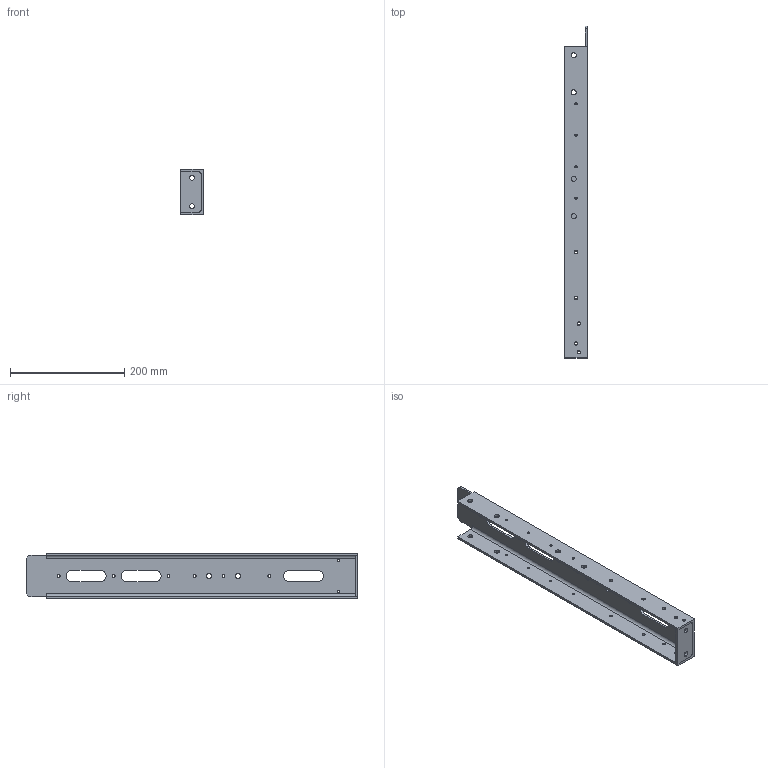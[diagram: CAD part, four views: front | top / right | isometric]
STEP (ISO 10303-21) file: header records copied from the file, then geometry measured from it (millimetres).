
FILE_DESCRIPTION (( 'STEP AP214' ), '1' );
FILE_NAME ('贅斃.301343.017 栺鍣罻.STEP', '2024-04-17T12:41:59', ( '' ), ( '' ), 'SwSTEP 2.0', 'SolidWorks 2019', '' );
FILE_SCHEMA (( 'AUTOMOTIVE_DESIGN' ));
Length unit declared in the file: millimetre
Products named in the file (3): ÂØÀÅ.741124.122 Ïëàñòèíà_80å40; ÂØÀÅ.746222.002 Ñòîéêà_580à; 贅斃.301343.017 栺鍣罻
Assembly tree (2 placements, depth 2):
  贅斃.301343.017 栺鍣罻
    ÂØÀÅ.746222.002 Ñòîéêà_580à
    ÂØÀÅ.741124.122 Ïëàñòèíà_80å40
Bounding box: 40 x 580 x 80 mm (x, y, z)
Volume: 339515 mm3; surface area: 174719.8 mm2
Topology: 2 solids, 2 shells, 165 faces, 431 edges, 270 vertices
Faces by surface type: cylinder 83, cone 52, plane 30
Entity records: 5813 total; most frequent: DIRECTION 989, CARTESIAN_POINT 871, ORIENTED_EDGE 862, EDGE_CURVE 431, AXIS2_PLACEMENT_3D 388, VERTEX_POINT 270, EDGE_LOOP 243, CIRCLE 218
